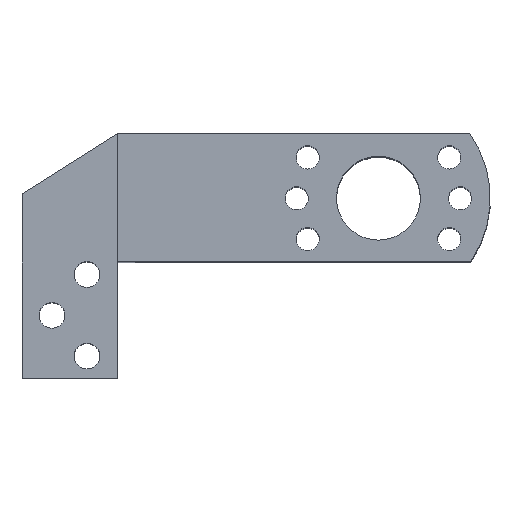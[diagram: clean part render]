
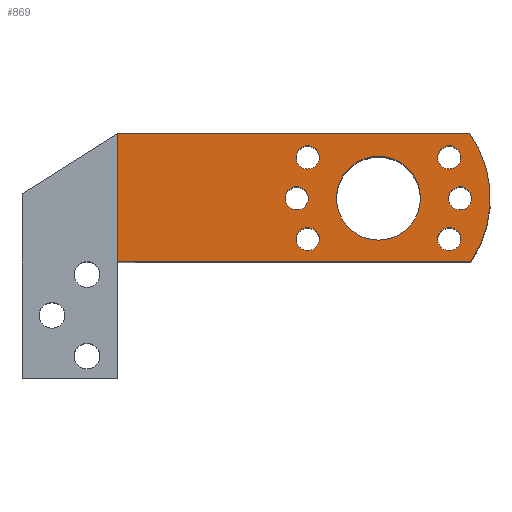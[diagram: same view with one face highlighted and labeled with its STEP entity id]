
A CAD part, top view. The second image highlights one B-rep face of the part: STEP entity #869.
In plain terms, the highlighted planar face has unit normal (0, 0, 1).
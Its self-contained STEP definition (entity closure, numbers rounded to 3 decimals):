
#47=FACE_BOUND('',#192,.T.);
#48=FACE_BOUND('',#193,.T.);
#49=FACE_BOUND('',#194,.T.);
#50=FACE_BOUND('',#195,.T.);
#51=FACE_BOUND('',#196,.T.);
#52=FACE_BOUND('',#197,.T.);
#53=FACE_BOUND('',#198,.T.);
#87=CIRCLE('',#935,9.6);
#88=CIRCLE('',#936,1.);
#89=CIRCLE('',#937,1.);
#90=CIRCLE('',#938,1.);
#91=CIRCLE('',#939,1.);
#92=CIRCLE('',#940,1.);
#93=CIRCLE('',#941,1.);
#94=CIRCLE('',#942,3.6);
#141=FACE_OUTER_BOUND('',#191,.T.);
#191=EDGE_LOOP('',(#675,#676,#677,#678));
#192=EDGE_LOOP('',(#679));
#193=EDGE_LOOP('',(#680));
#194=EDGE_LOOP('',(#681));
#195=EDGE_LOOP('',(#682));
#196=EDGE_LOOP('',(#683));
#197=EDGE_LOOP('',(#684));
#198=EDGE_LOOP('',(#685));
#279=LINE('',#1326,#353);
#294=LINE('',#1355,#368);
#299=LINE('',#1366,#373);
#353=VECTOR('',#1065,10.);
#368=VECTOR('',#1088,10.);
#373=VECTOR('',#1099,10.);
#423=VERTEX_POINT('',#1323);
#424=VERTEX_POINT('',#1325);
#434=VERTEX_POINT('',#1353);
#437=VERTEX_POINT('',#1364);
#438=VERTEX_POINT('',#1367);
#439=VERTEX_POINT('',#1369);
#440=VERTEX_POINT('',#1371);
#441=VERTEX_POINT('',#1373);
#442=VERTEX_POINT('',#1375);
#443=VERTEX_POINT('',#1377);
#444=VERTEX_POINT('',#1379);
#509=EDGE_CURVE('',#424,#423,#279,.T.);
#524=EDGE_CURVE('',#423,#434,#294,.T.);
#529=EDGE_CURVE('',#434,#437,#87,.T.);
#530=EDGE_CURVE('',#424,#437,#299,.T.);
#531=EDGE_CURVE('',#438,#438,#88,.T.);
#532=EDGE_CURVE('',#439,#439,#89,.T.);
#533=EDGE_CURVE('',#440,#440,#90,.T.);
#534=EDGE_CURVE('',#441,#441,#91,.T.);
#535=EDGE_CURVE('',#442,#442,#92,.T.);
#536=EDGE_CURVE('',#443,#443,#93,.T.);
#537=EDGE_CURVE('',#444,#444,#94,.T.);
#675=ORIENTED_EDGE('',*,*,#529,.T.);
#676=ORIENTED_EDGE('',*,*,#530,.F.);
#677=ORIENTED_EDGE('',*,*,#509,.T.);
#678=ORIENTED_EDGE('',*,*,#524,.T.);
#679=ORIENTED_EDGE('',*,*,#531,.T.);
#680=ORIENTED_EDGE('',*,*,#532,.T.);
#681=ORIENTED_EDGE('',*,*,#533,.T.);
#682=ORIENTED_EDGE('',*,*,#534,.T.);
#683=ORIENTED_EDGE('',*,*,#535,.T.);
#684=ORIENTED_EDGE('',*,*,#536,.T.);
#685=ORIENTED_EDGE('',*,*,#537,.T.);
#844=PLANE('',#934);
#869=ADVANCED_FACE('',(#141,#47,#48,#49,#50,#51,#52,#53),#844,.T.);
#934=AXIS2_PLACEMENT_3D('',#1363,#1095,#1096);
#935=AXIS2_PLACEMENT_3D('',#1365,#1097,#1098);
#936=AXIS2_PLACEMENT_3D('',#1368,#1100,#1101);
#937=AXIS2_PLACEMENT_3D('',#1370,#1102,#1103);
#938=AXIS2_PLACEMENT_3D('',#1372,#1104,#1105);
#939=AXIS2_PLACEMENT_3D('',#1374,#1106,#1107);
#940=AXIS2_PLACEMENT_3D('',#1376,#1108,#1109);
#941=AXIS2_PLACEMENT_3D('',#1378,#1110,#1111);
#942=AXIS2_PLACEMENT_3D('',#1380,#1112,#1113);
#1065=DIRECTION('',(0.,-1.,0.));
#1088=DIRECTION('',(1.,0.,0.));
#1095=DIRECTION('center_axis',(0.,0.,
1.));
#1096=DIRECTION('ref_axis',(0.,-1.,0.));
#1097=DIRECTION('center_axis',(0.,0.,
1.));
#1098=DIRECTION('ref_axis',(0.825,-0.566,0.));
#1099=DIRECTION('',(1.,0.,0.));
#1100=DIRECTION('center_axis',(0.,0.,
-1.));
#1101=DIRECTION('ref_axis',(0.5,-0.866,0.));
#1102=DIRECTION('center_axis',(0.,0.,
-1.));
#1103=DIRECTION('ref_axis',(1.,0.,0.));
#1104=DIRECTION('center_axis',(0.,0.,
-1.));
#1105=DIRECTION('ref_axis',(0.866,0.5,0.));
#1106=DIRECTION('center_axis',(0.,0.,
-1.));
#1107=DIRECTION('ref_axis',(1.,0.,0.));
#1108=DIRECTION('center_axis',(0.,0.,
-1.));
#1109=DIRECTION('ref_axis',(0.5,-0.866,0.));
#1110=DIRECTION('center_axis',(0.,0.,
-1.));
#1111=DIRECTION('ref_axis',(0.866,0.5,0.));
#1112=DIRECTION('center_axis',(0.,0.,
-1.));
#1113=DIRECTION('ref_axis',(1.,0.,0.));
#1323=CARTESIAN_POINT('',(-42.411,41.097,-7.55));
#1325=CARTESIAN_POINT('',(-42.411,52.097,-7.55));
#1326=CARTESIAN_POINT('',(-42.411,46.597,-7.55));
#1353=CARTESIAN_POINT('',(-12.083,41.097,-7.55));
#1355=CARTESIAN_POINT('',(-41.661,41.097,-7.55));
#1363=CARTESIAN_POINT('Origin',(-41.661,46.597,-7.55));
#1364=CARTESIAN_POINT('',(-12.181,52.097,-7.55));
#1365=CARTESIAN_POINT('Origin',(-20.,46.527,-7.55));
#1366=CARTESIAN_POINT('',(-15.,52.097,-7.55));
#1367=CARTESIAN_POINT('',(-14.438,43.893,-7.55));
#1368=CARTESIAN_POINT('Origin',(-13.938,43.027,-7.55));
#1369=CARTESIAN_POINT('',(-28.,46.527,-7.55));
#1370=CARTESIAN_POINT('Origin',(-27.,46.527,-7.55));
#1371=CARTESIAN_POINT('',(-26.928,42.527,-7.55));
#1372=CARTESIAN_POINT('Origin',(-26.062,43.027,-7.55));
#1373=CARTESIAN_POINT('',(-14.,46.527,-7.55));
#1374=CARTESIAN_POINT('Origin',(-13.,46.527,-7.55));
#1375=CARTESIAN_POINT('',(-26.562,50.893,-7.55));
#1376=CARTESIAN_POINT('Origin',(-26.062,50.027,-7.55));
#1377=CARTESIAN_POINT('',(-14.804,49.527,-7.55));
#1378=CARTESIAN_POINT('Origin',(-13.938,50.027,-7.55));
#1379=CARTESIAN_POINT('',(-23.6,46.527,-7.55));
#1380=CARTESIAN_POINT('Origin',(-20.,46.527,-7.55));
